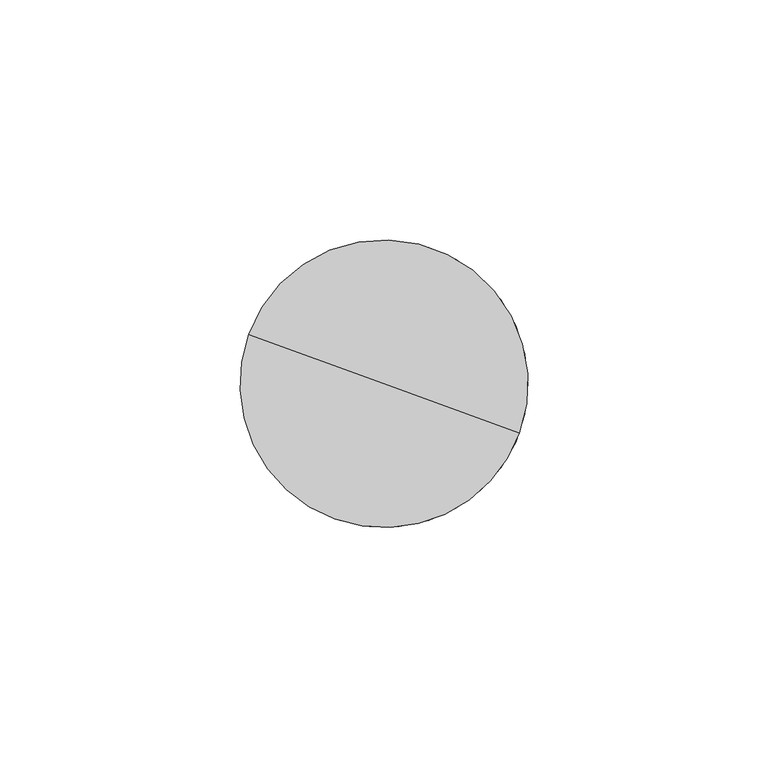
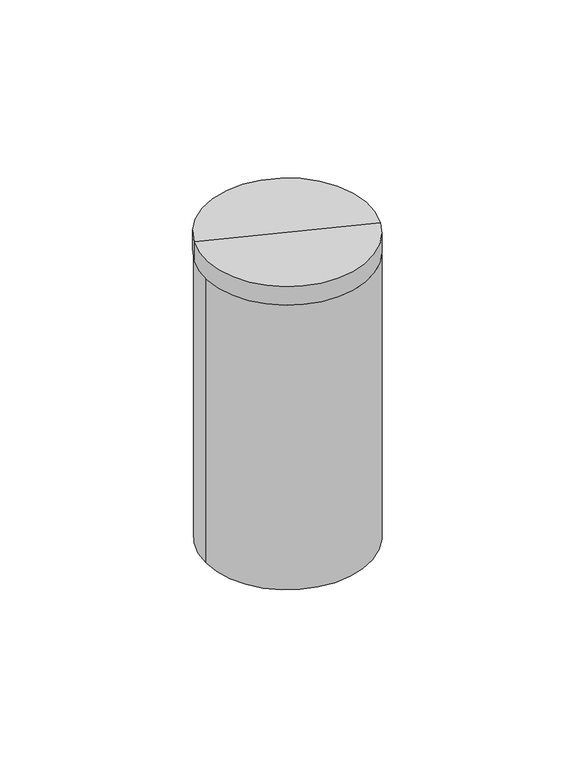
"""IFC4 building model written with IfcOpenShell, lengths in millimetres: light fixture geometry, Nooraneh_Slide : Nooraneh_Slide_Nooraneh_NU 60 20 R PCT_LDT_10w123Lm/w."""

import ifcopenshell
import ifcopenshell.guid

model = None  # the IFC model being written
_history = None  # IfcOwnerHistory: only IFC2X3 demands one
_inside = {}  # id of a spatial element -> (the spatial element, [elements in it])
_under = {}  # id of a project, library or spatial element -> (it, [spatial elements below it])
_declared = {}  # id of a project -> (the project, [libraries it declares])
_typed = {}  # id of a type object -> (the type object, [elements of that type])
_made_of = {}  # id of a material, layer set ... -> (it, [elements and type objects made of it])


def new_model(schema):
    """Start an empty IFC model of exactly this schema.

    Asked for "IFC4X3", IfcOpenShell would pick the latest addendum, in which some entities
    have other attributes; the version numbers below select the first issue.
    IFC2X3 requires an IfcOwnerHistory on every rooted entity: one is made here for all.
    """
    global model, _history
    if schema == "IFC4X3":
        model = ifcopenshell.file(schema_version=(4, 3, 0, 0))
    else:
        model = ifcopenshell.file(schema=schema)
    _inside.clear()
    _under.clear()
    _declared.clear()
    _typed.clear()
    _made_of.clear()
    _history = None
    if model.schema == "IFC2X3":
        org = make("IfcOrganization", Name="unknown")
        user = make(
            "IfcPersonAndOrganization",
            ThePerson=make("IfcPerson", FamilyName="unknown"),
            TheOrganization=org,
        )
        app = make(
            "IfcApplication",
            ApplicationDeveloper=org,
            Version="unknown",
            ApplicationFullName="unknown",
            ApplicationIdentifier="unknown",
        )
        _history = make(
            "IfcOwnerHistory",
            OwningUser=user,
            OwningApplication=app,
            ChangeAction="ADDED",
            CreationDate=0,
        )
    return model


def make(cls, **values):
    """One entity of the class cls with the attributes given. An attribute that is None is left unset."""
    return model.create_entity(
        cls, **{name: value for name, value in values.items() if value is not None}
    )


def rooted(cls, **values):
    """An entity with a GlobalId (a new one), such as an element, a storey or a relation."""
    return make(cls, GlobalId=ifcopenshell.guid.new(), OwnerHistory=_history, **values)


def si_unit(unit_type, name, prefix=None):
    """IfcSIUnit, for example si_unit("LENGTHUNIT", "METRE", prefix="MILLI")."""
    return make("IfcSIUnit", UnitType=unit_type, Prefix=prefix, Name=name)


def assignment(units):
    """IfcUnitAssignment: the units of a project."""
    return None if units is None else make("IfcUnitAssignment", Units=units)


def point(xyz):
    """IfcCartesianPoint."""
    return None if xyz is None else make("IfcCartesianPoint", Coordinates=xyz)


def direction(xyz):
    """IfcDirection."""
    return None if xyz is None else make("IfcDirection", DirectionRatios=xyz)


def frame(location, z_axis=None, x_axis=None):
    """IfcAxis2Placement3D, a coordinate frame: its origin and axes. An axis left out is left unset."""
    return make(
        "IfcAxis2Placement3D",
        Location=point(location),
        Axis=direction(z_axis),
        RefDirection=direction(x_axis),
    )


def frame_2d(location, x_axis=None):
    """IfcAxis2Placement2D, a coordinate frame in the plane: its origin and x axis."""
    return make(
        "IfcAxis2Placement2D", Location=point(location), RefDirection=direction(x_axis)
    )


def origin():
    """The frame at (0, 0, 0) with its axes left unset."""
    return frame((0.0, 0.0, 0.0))


def origin_2d():
    """The frame at (0, 0) in the plane with its x axis left unset."""
    return frame_2d((0.0, 0.0))


def place(relative_to, where):
    """IfcLocalPlacement: puts the frame where relative to a parent placement (None: the world)."""
    return make(
        "IfcLocalPlacement", PlacementRelTo=relative_to, RelativePlacement=where
    )


def context(
    kind, dimensions, precision=None, world=None, true_north=None, identifier=None
):
    """IfcGeometricRepresentationContext, for example the 3D "Model" context."""
    return make(
        "IfcGeometricRepresentationContext",
        ContextIdentifier=identifier,
        ContextType=kind,
        CoordinateSpaceDimension=dimensions,
        Precision=precision,
        WorldCoordinateSystem=world,
        TrueNorth=true_north,
    )


def project(units=None, contexts=None):
    """IfcProject with its units and contexts."""
    return rooted(
        "IfcProject",
        Name="project",
        RepresentationContexts=contexts,
        UnitsInContext=assignment(units),
    )


def spatial(cls, under=None, at=None, **own):
    """A site, building, storey or space (cls), placed at a placement, below another one or the project."""
    s = rooted(cls, ObjectPlacement=at, **own)
    if under is not None:
        _under.setdefault(under.id(), (under, []))[1].append(s)
    return s


def polyline(points):
    """IfcPolyline through the points."""
    return make("IfcPolyline", Points=[point(p) for p in points])


def circle_curve(where, radius):
    """IfcCircle in the frame where."""
    return make("IfcCircle", Position=where, Radius=radius)


def trimmed(basis, trim1, trim2, sense, master):
    """IfcTrimmedCurve: the piece of a basis curve between two trims."""
    return make(
        "IfcTrimmedCurve",
        BasisCurve=basis,
        Trim1=trim1,
        Trim2=trim2,
        SenseAgreement=sense,
        MasterRepresentation=master,
    )


def segment(curve, same_sense, transition):
    """IfcCompositeCurveSegment."""
    return make(
        "IfcCompositeCurveSegment",
        Transition=transition,
        SameSense=same_sense,
        ParentCurve=curve,
    )


def composite_curve(segments, self_intersect=None):
    """IfcCompositeCurve: segments joined end to end."""
    return make("IfcCompositeCurve", Segments=segments, SelfIntersect=self_intersect)


def outline(outer, holes=None, kind="AREA"):
    """IfcArbitraryClosedProfileDef: a profile drawn as a closed curve; with holes, ...WithVoids."""
    if holes is None:
        return make("IfcArbitraryClosedProfileDef", ProfileType=kind, OuterCurve=outer)
    return make(
        "IfcArbitraryProfileDefWithVoids",
        ProfileType=kind,
        OuterCurve=outer,
        InnerCurves=holes,
    )


def extrude(swept, where, along, depth):
    """IfcExtrudedAreaSolid: the profile swept, set in the frame where, extruded along a direction by depth."""
    return make(
        "IfcExtrudedAreaSolid",
        SweptArea=swept,
        Position=where,
        ExtrudedDirection=direction(along),
        Depth=depth,
    )


def shape(context_of_items, identifier, shape_type, items):
    """IfcShapeRepresentation: the items that make up one representation, for example the "Body"."""
    return make(
        "IfcShapeRepresentation",
        ContextOfItems=context_of_items,
        RepresentationIdentifier=identifier,
        RepresentationType=shape_type,
        Items=items,
    )


def source(mapping_origin, context_of_items, identifier, shape_type, items):
    """IfcRepresentationMap: a shape defined once, which mapped items show again and again."""
    return make(
        "IfcRepresentationMap",
        MappingOrigin=mapping_origin,
        MappedRepresentation=shape(context_of_items, identifier, shape_type, items),
    )


def transform(
    local_origin,
    x_axis=None,
    y_axis=None,
    z_axis=None,
    scale=None,
    scale2=None,
    scale3=None,
    uniform=True,
):
    """IfcCartesianTransformationOperator3D, or its non-uniform kind. x_axis, y_axis, z_axis: its Axis1, 2, 3."""
    if uniform:
        return make(
            "IfcCartesianTransformationOperator3D",
            Axis1=direction(x_axis),
            Axis2=direction(y_axis),
            LocalOrigin=point(local_origin),
            Scale=scale,
            Axis3=direction(z_axis),
        )
    return make(
        "IfcCartesianTransformationOperator3DnonUniform",
        Axis1=direction(x_axis),
        Axis2=direction(y_axis),
        LocalOrigin=point(local_origin),
        Scale=scale,
        Axis3=direction(z_axis),
        Scale2=scale2,
        Scale3=scale3,
    )


def mapped(mapping_source, mapping_target):
    """IfcMappedItem: shows the shape of a source again, moved by a transform."""
    return make(
        "IfcMappedItem", MappingSource=mapping_source, MappingTarget=mapping_target
    )


def made_of(thing, what):
    """Note that an element or type object is made of a material, layer set ...; save() writes the relation."""
    if what is not None:
        _made_of.setdefault(what.id(), (what, []))[1].append(thing)
    return thing


def element(
    cls,
    number,
    at=None,
    inside=None,
    cuts=None,
    type_object=None,
    material=None,
    context=None,
    identifier="Body",
    shape_type=None,
    held_by="IfcProductDefinitionShape",
    body=None,
    shapes=None,
    **own,
):
    """One element of the class cls, such as IfcWall. Its Tag is "e" and its number.

    at: its placement. inside: the storey or other place that contains it. cuts: it is an
    opening in that element (IfcRelVoidsElement). A single representation is given by context,
    identifier, shape_type and body (its items); several are given by shapes. held_by: the class
    of the entity that holds the representations. save() writes the other relations.
    """
    e = rooted(cls, Tag="e%d" % number, ObjectPlacement=at, **own)
    if body is not None:
        shapes = [shape(context, identifier, shape_type, body)]
    if shapes is not None:
        e.Representation = make(held_by, Representations=shapes)
    if inside is not None:
        _inside.setdefault(inside.id(), (inside, []))[1].append(e)
    if cuts is not None:
        rooted(
            "IfcRelVoidsElement", RelatingBuildingElement=cuts, RelatedOpeningElement=e
        )
    if type_object is not None:
        _typed.setdefault(type_object.id(), (type_object, []))[1].append(e)
    return made_of(e, material)


def aggregate(whole, parts):
    """IfcRelAggregates: a whole, such as a stair, and the parts it consists of."""
    return rooted("IfcRelAggregates", RelatingObject=whole, RelatedObjects=parts)


def save(model, path):
    """Write the relations noted so far, then the file.

    IfcRelAggregates (storeys below a building ...), IfcRelContainedInSpatialStructure (elements
    in a storey), IfcRelDefinesByType, IfcRelAssociatesMaterial and IfcRelDeclares: one each for
    every whole, place, type object, material and project.
    """
    for whole, parts in _under.values():
        aggregate(whole, parts)
    for where, things in _inside.values():
        rooted(
            "IfcRelContainedInSpatialStructure",
            RelatedElements=things,
            RelatingStructure=where,
        )
    for kind, things in _typed.values():
        rooted("IfcRelDefinesByType", RelatedObjects=things, RelatingType=kind)
    for what, things in _made_of.values():
        rooted("IfcRelAssociatesMaterial", RelatedObjects=things, RelatingMaterial=what)
    for by, libraries in _declared.values():
        rooted("IfcRelDeclares", RelatingContext=by, RelatedDefinitions=libraries)
    model.write(path)


def plane_surface(at):
    """IfcPlane: the flat surface through the origin of the frame at, square to its z axis."""
    return make("IfcPlane", Position=at)


def cylinder_surface(at, radius):
    """IfcCylindricalSurface: all points at the distance radius from the z axis of the frame at."""
    return make("IfcCylindricalSurface", Position=at, Radius=radius)


def advanced_brep(points, edges, surfaces, faces):
    """IfcAdvancedBrep: a solid bounded by faces that lie on surfaces and meet in shared edges.

    An edge is (start, end): straight between two places in points (the first is 0);
    or (start, end, curve); or (start, end, curve, False) where it runs against its curve.
    A face is (place in surfaces, loops), or (place, loops, False) where it looks against
    its surface's normal. A loop lists edges by number (the first is 1), with a minus sign
    where the edge is run from its end to its start. The first loop is the outer one.
    """
    corners = [point(p) for p in points]
    vertices = [make("IfcVertexPoint", VertexGeometry=c) for c in corners]
    made = []
    for start, end, *more in edges:
        made.append(
            make(
                "IfcEdgeCurve",
                EdgeStart=vertices[start],
                EdgeEnd=vertices[end],
                EdgeGeometry=more[0] if more else make("IfcPolyline", Points=[corners[start], corners[end]]),
                SameSense=more[1] if len(more) > 1 else True,
            )
        )
    hull = []
    for where, loops, *sense in faces:
        bounds = []
        for j, loop in enumerate(loops):
            ring = [make("IfcOrientedEdge", EdgeElement=made[abs(k) - 1], Orientation=k > 0) for k in loop]
            bounds.append(
                make(
                    "IfcFaceOuterBound" if j == 0 else "IfcFaceBound",
                    Bound=make("IfcEdgeLoop", EdgeList=ring),
                    Orientation=True,
                )
            )
        hull.append(make("IfcAdvancedFace", Bounds=bounds, FaceSurface=surfaces[where], SameSense=sense[0] if sense else True))
    return make("IfcAdvancedBrep", Outer=make("IfcClosedShell", CfsFaces=hull))


def light_fixture_4a1fe0db(model_context):
    return source(origin(), model_context, "Body", "SolidModel", [
        extrude(outline(polyline([(-4.4889867, 22.7438308), (-5.333566, 24.5550369), (-4.0605076, 25.1486738), (-3.2159283, 23.3374677), (-4.4889867, 22.7438308)])), frame((0.0, 0.0, -21.2989335), z_axis=(0.0, 0.0, 1.0), x_axis=(1.0, 0.0, 0.0)), (0.0, 0.0, 1.0), 5.5639033),
        advanced_brep(
        [(-28.3052087, 10.3022534, 0.8084326), (28.0763486, -10.2189552, 0.8084326), (28.0763486, -10.2189552, -6.3563982), (-28.3052087, 10.3022534, -6.3563982), (-0.1144301, 0.0416491, 0.8084326), (-0.1144301, 0.0416491, -6.3563982)],
        [
            (0, 1, circle_curve(frame((-0.1144301, 0.0416491, 0.8084326), z_axis=(0.0, 0.0, -1.0), x_axis=(0.9396926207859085, -0.34202014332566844, 0.0)), 30.0)),
            (1, 2),
            (2, 3, circle_curve(frame((-0.1144301, 0.0416491, -6.3563982), z_axis=(0.0, 0.0, 1.0), x_axis=(0.9396926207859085, -0.34202014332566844, 0.0)), 30.0)),
            (3, 0),
            (1, 0, circle_curve(frame((-0.1144301, 0.0416491, 0.8084326), z_axis=(0.0, 0.0, -1.0), x_axis=(0.9396926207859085, -0.34202014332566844, 0.0)), 30.0)),
            (3, 2, circle_curve(frame((-0.1144301, 0.0416491, -6.3563982), z_axis=(0.0, 0.0, 1.0), x_axis=(0.9396926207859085, -0.34202014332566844, 0.0)), 30.0)),
            (4, 1),
            (0, 4),
            (2, 5),
            (5, 3),
        ],
        [
            cylinder_surface(frame((-0.1144301, 0.0416491, 17.4442128), z_axis=(0.0, 0.0, 1.0), x_axis=(0.9396926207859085, -0.34202014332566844, 0.0)), 30.0),
            plane_surface(frame((-0.1144301, 0.0416491, 0.8084326), z_axis=(0.0, 0.0, 1.0), x_axis=(0.9396926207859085, -0.34202014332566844, 0.0))),
            plane_surface(frame((-0.1144301, 0.0416491, -6.3563982), z_axis=(0.0, 0.0, -1.0), x_axis=(0.9396926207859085, -0.34202014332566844, 0.0))),
        ],
        [
            (0, [[1, 2, 3, 4]]),
            (0, [[5, -4, 6, -2]]),
            (1, [[7, -1, 8]]),
            (1, [[-8, -5, -7]]),
            (2, [[-3, 9, 10]]),
            (2, [[-6, -10, -9]]),
        ],
    ),
        extrude(outline(composite_curve([segment(trimmed(circle_curve(origin_2d(), 29.8782261), [point((-29.8782261, 0.0))], [point((29.8782261, 0.0))], False, "CARTESIAN"), True, "CONTINUOUS"), segment(trimmed(circle_curve(origin_2d(), 29.8782261), [point((29.8782261, 0.0))], [point((-29.8782261, 0.0))], False, "CARTESIAN"), True, "CONTINUOUS")], self_intersect=False)), frame((0.0, 0.0, -116.3563982), z_axis=(0.0, 0.0, 1.0), x_axis=(1.0, 0.0, 0.0)), (0.0, 0.0, 1.0), 110.0),
    ])


if __name__ == "__main__":
    model = new_model("IFC4")
    model_context = context("Model", 3, world=origin())
    ifc_project = project(units=[si_unit("LENGTHUNIT", "METRE", prefix="MILLI")], contexts=[model_context])
    site = spatial("IfcSite", under=ifc_project)
    building = spatial("IfcBuilding", under=site)
    placement = place(None, origin())
    light_fixture_shape = light_fixture_4a1fe0db(model_context)
    element("IfcLightFixture", 1, ObjectType="Nooraneh_Slide : Nooraneh_Slide_Nooraneh_NU 60 20 R PCT_LDT_10w123Lm/w", at=placement, inside=building, context=model_context, shape_type="MappedRepresentation", body=[
        mapped(light_fixture_shape, transform((0.0, 0.0, 0.0), x_axis=(1.0, 0.0, 0.0), y_axis=(0.0, 1.0, 0.0), z_axis=(0.0, 0.0, 1.0))),
    ])
    save(model, "model.ifc")
